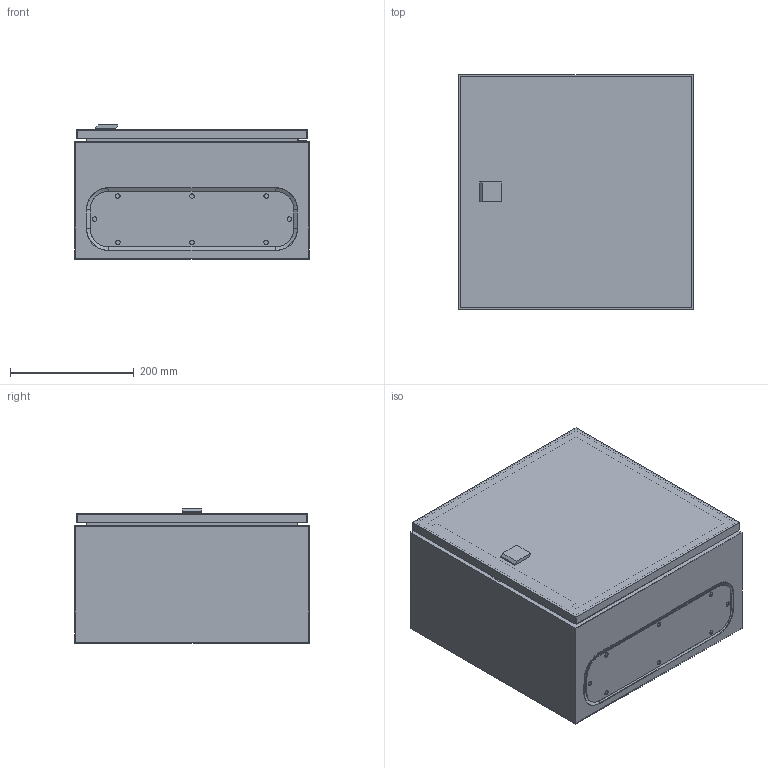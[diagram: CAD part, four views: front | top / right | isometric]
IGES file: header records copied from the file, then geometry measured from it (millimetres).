
Global section: file name: H:\lem\3DCAD_Schaltschrank_LSC_fuer_CMS.igs; native system: NX V11.0; preprocessor: SIEMENS PLM Software NX 11.0; date: 20191011.094236; units: millimetre
Bounding box: 380 x 380 x 217 mm (x, y, z)
Surface area: 1596259.6 mm2 (no closed solid volume)
Topology: 0 solids, 0 shells, 380 faces, 2807 edges, 2805 vertices
Faces by surface type: bspline 380
